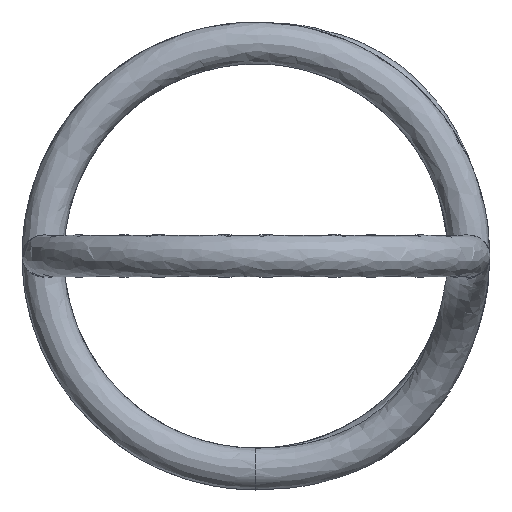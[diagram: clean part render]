
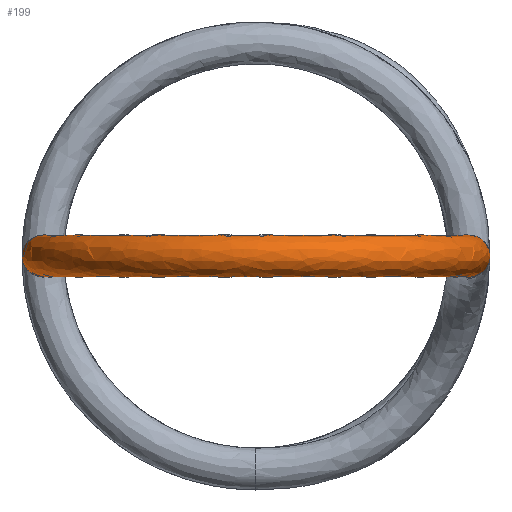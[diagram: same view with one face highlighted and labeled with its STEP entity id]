
A CAD part, front view. The second image highlights one B-rep face of the part: STEP entity #199.
In plain terms, the highlighted free-form (B-spline) face has degree [2, 2] with [9, 7] control points.
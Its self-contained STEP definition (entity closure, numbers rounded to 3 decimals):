
#15=(
BOUNDED_SURFACE()
B_SPLINE_SURFACE(2,2,((#692,#693,#694,#695,#696,#697,#698),(#699,#700,#701,
#702,#703,#704,#705),(#706,#707,#708,#709,#710,#711,#712),(#713,#714,#715,
#716,#717,#718,#719),(#720,#721,#722,#723,#724,#725,#726),(#727,#728,#729,
#730,#731,#732,#733),(#734,#735,#736,#737,#738,#739,#740),(#741,#742,#743,
#744,#745,#746,#747),(#748,#749,#750,#751,#752,#753,#754)),
 .UNSPECIFIED.,.T.,.F.,.F.)
B_SPLINE_SURFACE_WITH_KNOTS((3,2,2,2,3),(3,2,2,3),(0.,1.571,3.142,
4.712,6.283),(0.,1.08,2.16,
3.241),.UNSPECIFIED.)
GEOMETRIC_REPRESENTATION_ITEM()
RATIONAL_B_SPLINE_SURFACE(((1.,0.858,1.,0.858,1.,
0.858,1.),(0.707,0.606,0.707,
0.606,0.707,0.606,0.707),
(1.,0.858,1.,0.858,1.,0.858,1.),(0.707,
0.606,0.707,0.606,0.707,
0.606,0.707),(1.,0.858,1.,0.858,
1.,0.858,1.),(0.707,0.606,0.707,
0.606,0.707,0.606,0.707),
(1.,0.858,1.,0.858,1.,0.858,1.),(0.707,
0.606,0.707,0.606,0.707,
0.606,0.707),(1.,0.858,1.,0.858,
1.,0.858,1.)))
REPRESENTATION_ITEM('')
SURFACE()
);
#22=CIRCLE('',#234,0.315);
#23=CIRCLE('',#235,3.045);
#24=CIRCLE('',#236,0.315);
#37=FACE_OUTER_BOUND('',#48,.T.);
#48=EDGE_LOOP('',(#142,#143,#144,#145));
#85=VERTEX_POINT('',#617);
#88=VERTEX_POINT('',#755);
#106=EDGE_CURVE('',#85,#85,#22,.T.);
#109=EDGE_CURVE('',#85,#88,#23,.T.);
#110=EDGE_CURVE('',#88,#88,#24,.T.);
#142=ORIENTED_EDGE('',*,*,#106,.T.);
#143=ORIENTED_EDGE('',*,*,#109,.T.);
#144=ORIENTED_EDGE('',*,*,#110,.F.);
#145=ORIENTED_EDGE('',*,*,#109,.F.);
#199=ADVANCED_FACE('',(#37),#15,.T.);
#234=AXIS2_PLACEMENT_3D('',#628,#256,#257);
#235=AXIS2_PLACEMENT_3D('',#756,#258,#259);
#236=AXIS2_PLACEMENT_3D('',#757,#260,#261);
#256=DIRECTION('center_axis',(0.,-1.,0.));
#257=DIRECTION('ref_axis',(-0.445,0.,-0.896));
#258=DIRECTION('center_axis',(0.,0.,
-1.));
#259=DIRECTION('ref_axis',(1.,0.,0.));
#260=DIRECTION('center_axis',(0.099,0.995,0.));
#261=DIRECTION('ref_axis',(0.443,-0.044,-0.896));
#617=CARTESIAN_POINT('',(3.045,-7.175,-0.282));
#628=CARTESIAN_POINT('Origin',(3.185,-7.175,0.));
#692=CARTESIAN_POINT('Ctrl Pts',(3.045,-7.175,-0.282));
#693=CARTESIAN_POINT('Ctrl Pts',(3.045,-9.001,-0.282));
#694=CARTESIAN_POINT('Ctrl Pts',(1.435,-9.861,-0.282));
#695=CARTESIAN_POINT('Ctrl Pts',(-0.176,-10.721,-0.282));
#696=CARTESIAN_POINT('Ctrl Pts',(-1.693,-9.706,-0.282));
#697=CARTESIAN_POINT('Ctrl Pts',(-3.21,-8.691,-0.282));
#698=CARTESIAN_POINT('Ctrl Pts',(-3.03,-6.874,-0.282));
#699=CARTESIAN_POINT('Ctrl Pts',(3.327,-7.175,-0.422));
#700=CARTESIAN_POINT('Ctrl Pts',(3.327,-9.17,-0.422));
#701=CARTESIAN_POINT('Ctrl Pts',(1.568,-10.11,-0.422));
#702=CARTESIAN_POINT('Ctrl Pts',(-0.192,-11.049,-0.422));
#703=CARTESIAN_POINT('Ctrl Pts',(-1.85,-9.94,-0.422));
#704=CARTESIAN_POINT('Ctrl Pts',(-3.508,-8.831,-0.422));
#705=CARTESIAN_POINT('Ctrl Pts',(-3.311,-6.846,-0.422));
#706=CARTESIAN_POINT('Ctrl Pts',(3.467,-7.175,-0.14));
#707=CARTESIAN_POINT('Ctrl Pts',(3.467,-9.254,-0.14));
#708=CARTESIAN_POINT('Ctrl Pts',(1.634,-10.233,-0.14));
#709=CARTESIAN_POINT('Ctrl Pts',(-0.2,-11.213,-0.14));
#710=CARTESIAN_POINT('Ctrl Pts',(-1.928,-10.057,-0.14));
#711=CARTESIAN_POINT('Ctrl Pts',(-3.655,-8.901,-0.14));
#712=CARTESIAN_POINT('Ctrl Pts',(-3.45,-6.833,-0.14));
#713=CARTESIAN_POINT('Ctrl Pts',(3.607,-7.175,0.142));
#714=CARTESIAN_POINT('Ctrl Pts',(3.607,-9.338,0.142));
#715=CARTESIAN_POINT('Ctrl Pts',(1.7,-10.357,0.142));
#716=CARTESIAN_POINT('Ctrl Pts',(-0.208,-11.376,0.142));
#717=CARTESIAN_POINT('Ctrl Pts',(-2.006,-10.173,0.142));
#718=CARTESIAN_POINT('Ctrl Pts',(-3.803,-8.971,0.142));
#719=CARTESIAN_POINT('Ctrl Pts',(-3.59,-6.819,0.142));
#720=CARTESIAN_POINT('Ctrl Pts',(3.325,-7.175,0.282));
#721=CARTESIAN_POINT('Ctrl Pts',(3.325,-9.169,0.282));
#722=CARTESIAN_POINT('Ctrl Pts',(1.567,-10.108,0.282));
#723=CARTESIAN_POINT('Ctrl Pts',(-0.192,-11.047,0.282));
#724=CARTESIAN_POINT('Ctrl Pts',(-1.849,-9.939,0.282));
#725=CARTESIAN_POINT('Ctrl Pts',(-3.506,-8.83,0.282));
#726=CARTESIAN_POINT('Ctrl Pts',(-3.309,-6.847,0.282));
#727=CARTESIAN_POINT('Ctrl Pts',(3.043,-7.175,0.422));
#728=CARTESIAN_POINT('Ctrl Pts',(3.043,-8.999,0.422));
#729=CARTESIAN_POINT('Ctrl Pts',(1.434,-9.859,0.422));
#730=CARTESIAN_POINT('Ctrl Pts',(-0.175,-10.719,0.422));
#731=CARTESIAN_POINT('Ctrl Pts',(-1.692,-9.704,0.422));
#732=CARTESIAN_POINT('Ctrl Pts',(-3.208,-8.69,0.422));
#733=CARTESIAN_POINT('Ctrl Pts',(-3.028,-6.874,0.422));
#734=CARTESIAN_POINT('Ctrl Pts',(2.903,-7.175,0.14));
#735=CARTESIAN_POINT('Ctrl Pts',(2.903,-8.915,0.14));
#736=CARTESIAN_POINT('Ctrl Pts',(1.368,-9.735,0.14));
#737=CARTESIAN_POINT('Ctrl Pts',(-0.167,-10.556,0.14));
#738=CARTESIAN_POINT('Ctrl Pts',(-1.614,-9.588,0.14));
#739=CARTESIAN_POINT('Ctrl Pts',(-3.061,-8.62,0.14));
#740=CARTESIAN_POINT('Ctrl Pts',(-2.889,-6.888,0.14));
#741=CARTESIAN_POINT('Ctrl Pts',(2.763,-7.175,-0.142));
#742=CARTESIAN_POINT('Ctrl Pts',(2.763,-8.831,-0.142));
#743=CARTESIAN_POINT('Ctrl Pts',(1.302,-9.612,-0.142));
#744=CARTESIAN_POINT('Ctrl Pts',(-0.159,-10.392,-0.142));
#745=CARTESIAN_POINT('Ctrl Pts',(-1.536,-9.471,-0.142));
#746=CARTESIAN_POINT('Ctrl Pts',(-2.913,-8.55,-0.142));
#747=CARTESIAN_POINT('Ctrl Pts',(-2.749,-6.902,-0.142));
#748=CARTESIAN_POINT('Ctrl Pts',(3.045,-7.175,-0.282));
#749=CARTESIAN_POINT('Ctrl Pts',(3.045,-9.001,-0.282));
#750=CARTESIAN_POINT('Ctrl Pts',(1.435,-9.861,-0.282));
#751=CARTESIAN_POINT('Ctrl Pts',(-0.176,-10.721,-0.282));
#752=CARTESIAN_POINT('Ctrl Pts',(-1.693,-9.706,-0.282));
#753=CARTESIAN_POINT('Ctrl Pts',(-3.21,-8.691,-0.282));
#754=CARTESIAN_POINT('Ctrl Pts',(-3.03,-6.874,-0.282));
#755=CARTESIAN_POINT('',(-3.03,-6.874,-0.282));
#756=CARTESIAN_POINT('Origin',(0.,-7.175,-0.282));
#757=CARTESIAN_POINT('Origin',(-3.169,-6.86,0.));
